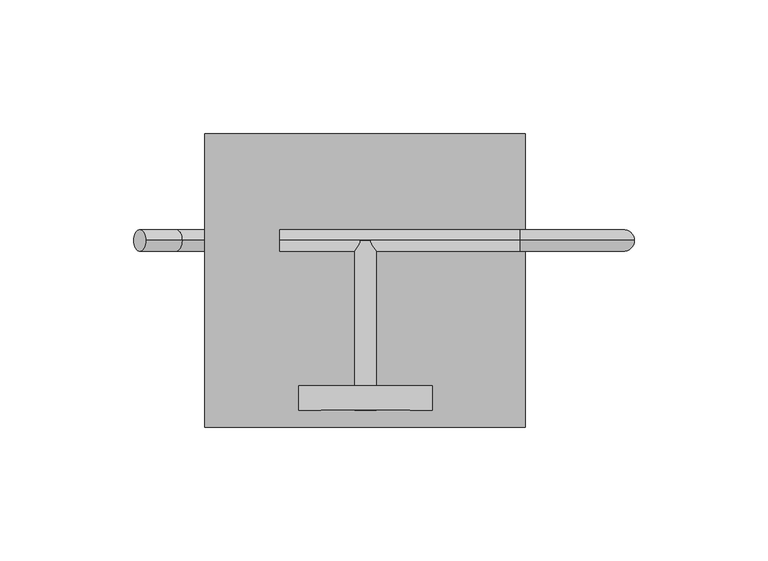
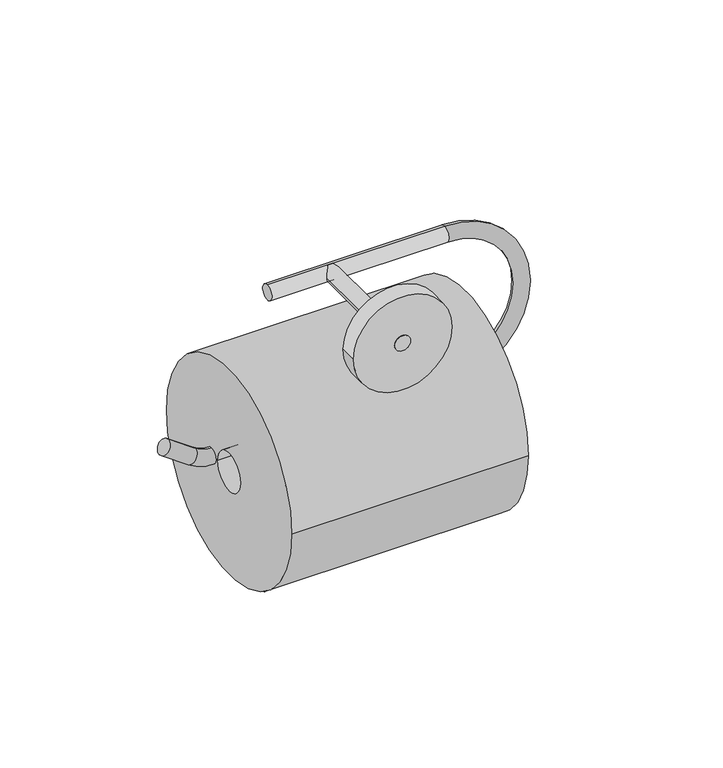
"""IFC4 building model written with IfcOpenShell, lengths in millimetres: flow terminal geometry, Portarrollo Dica 1017 : Portarrollos Dica 1017."""

from ifc_helpers import new_model, si_unit, point, frame, frame_2d, origin, place, context, project, spatial, circle_curve, ellipse_curve, trimmed, segment, composite_curve, outline, extrude, source, transform, mapped, element, save
from ifc_brep_helpers import plane_surface, cylinder_surface, revolved_surface, advanced_brep


def flow_terminal_38a58ad7(model_context):
    return source(origin(), model_context, "Body", "SolidModel", [
        extrude(outline(composite_curve([segment(trimmed(circle_curve(frame_2d((138.5, -77.2787162)), 55.0), [point((193.5, -77.2787162))], [point((83.5, -77.2787162))], False, "CARTESIAN"), True, "CONTINUOUS"), segment(trimmed(circle_curve(frame_2d((138.5, -77.2787162)), 55.0), [point((83.5, -77.2787162))], [point((193.5, -77.2787162))], False, "CARTESIAN"), True, "CONTINUOUS")], self_intersect=False), holes=[composite_curve([segment(trimmed(circle_curve(frame_2d((138.5, -77.2787162)), 10.0), [point((148.5, -77.2787162))], [point((128.5, -77.2787162))], True, "CARTESIAN"), True, "CONTINUOUS"), segment(trimmed(circle_curve(frame_2d((138.5, -77.2787162)), 10.0), [point((128.5, -77.2787162))], [point((148.5, -77.2787162))], True, "CARTESIAN"), True, "CONTINUOUS")], self_intersect=False)]), frame((64.9375, 0.0, 0.0), z_axis=(1.0, 0.0, 0.0), x_axis=(0.0, 1.0, 0.0)), (0.0, 0.0, 1.0), 120.0),
        extrude(outline(composite_curve([segment(trimmed(circle_curve(frame_2d((0.0, 125.0)), 4.0), [point((0.0, 121.0))], [point((0.0, 129.0))], False, "CARTESIAN"), True, "CONTINUOUS"), segment(trimmed(circle_curve(frame_2d((0.0, 125.0)), 4.0), [point((0.0, 129.0))], [point((0.0, 121.0))], False, "CARTESIAN"), True, "CONTINUOUS")], self_intersect=False)), frame((0.0, 90.0, 0.0), z_axis=(0.0, 1.0, 0.0), x_axis=(0.0, 0.0, 1.0)), (0.0, 0.0, 1.0), 63.3830496),
        extrude(outline(composite_curve([segment(trimmed(circle_curve(frame_2d((0.0, 125.0)), 25.0), [point((0.0, 100.0))], [point((0.0, 150.0))], False, "CARTESIAN"), True, "CONTINUOUS"), segment(trimmed(circle_curve(frame_2d((0.0, 125.0)), 25.0), [point((0.0, 150.0))], [point((0.0, 100.0))], False, "CARTESIAN"), True, "CONTINUOUS")], self_intersect=False)), frame((0.0, 90.0, 0.0), z_axis=(0.0, 1.0, 0.0), x_axis=(0.0, 0.0, 1.0)), (0.0, 0.0, 1.0), 8.9918697),
        advanced_brep(
        [(38.2124764, 153.5, -67.8712806), (42.8010879, 153.5, -61.3180642), (51.7841808, 153.5, -77.3742904), (56.3727923, 153.5, -70.821074), (64.8692601, 153.5, -73.5), (64.8692601, 153.5, -81.5), (182.9954104, 153.5, -81.5), (182.9954104, 153.5, -73.5), (182.9954104, 153.5, -4.0), (182.9954104, 153.5, 4.0), (92.9954104, 153.5, 4.0), (92.9954104, 153.5, -4.0)],
        [
            (0, 1, circle_curve(frame((40.5067821, 153.5, -64.5946724), z_axis=(-0.8191520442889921, 0.0, 0.5735764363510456), x_axis=(0.5735764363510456, 0.0, 0.8191520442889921)), 4.0)),
            (1, 0, circle_curve(frame((40.5067821, 153.5, -64.5946724), z_axis=(-0.8191520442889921, 0.0, 0.5735764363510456), x_axis=(0.5735764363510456, 0.0, 0.8191520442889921)), 4.0)),
            (0, 2),
            (2, 3, circle_curve(frame((54.0784866, 153.5, -74.0976822), z_axis=(-0.8191520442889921, 0.0, 0.5735764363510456), x_axis=(0.5735764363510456, 0.0, 0.8191520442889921)), 4.0)),
            (3, 1),
            (3, 2, circle_curve(frame((54.0784866, 153.5, -74.0976822), z_axis=(-0.8191520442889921, 0.0, 0.5735764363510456), x_axis=(0.5735764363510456, 0.0, 0.8191520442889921)), 4.0)),
            (4, 3, circle_curve(frame((64.8692601, 153.5, -58.6868605), z_axis=(0.0, 1.0, 0.0), x_axis=(-0.5735764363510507, 0.0, -0.8191520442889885)), 14.8131395)),
            (2, 5, circle_curve(frame((64.8692601, 153.5, -58.6868605), z_axis=(0.0, -1.0, 0.0), x_axis=(-0.5735764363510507, 0.0, -0.8191520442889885)), 22.8131395)),
            (5, 4, circle_curve(frame((64.8692601, 153.5, -77.5), z_axis=(-1.0, 0.0, 0.0), x_axis=(0.0, 0.0, 1.0)), 4.0)),
            (4, 5, circle_curve(frame((64.8692601, 153.5, -77.5), z_axis=(-0.9999999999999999, 0.0, 0.0), x_axis=(0.0, 0.0, 0.9999999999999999)), 4.0)),
            (5, 6),
            (6, 7, circle_curve(frame((182.9954104, 153.5, -77.5), z_axis=(-1.0, 0.0, 0.0), x_axis=(0.0, 0.0, 1.0)), 4.0)),
            (7, 4),
            (7, 6, circle_curve(frame((182.9954104, 153.5, -77.5), z_axis=(-1.0, 0.0, 0.0), x_axis=(0.0, 0.0, 1.0)), 4.0)),
            (8, 7, circle_curve(frame((182.9954104, 153.5, -38.75), z_axis=(0.0, 1.0, 0.0), x_axis=(0.0, 0.0, -1.0)), 34.75)),
            (6, 9, circle_curve(frame((182.9954104, 153.5, -38.75), z_axis=(0.0, -1.0, 0.0), x_axis=(0.0, 0.0, -1.0)), 42.75)),
            (9, 8, circle_curve(frame((182.9954104, 153.5, 0.0), z_axis=(1.0, 0.0, 0.0), x_axis=(0.0, 0.0, -1.0)), 4.0)),
            (8, 9, circle_curve(frame((182.9954104, 153.5, 0.0), z_axis=(1.0, 0.0, 0.0), x_axis=(0.0, 0.0, -1.0)), 4.0)),
            (10, 11, circle_curve(frame((92.9954104, 153.5, 0.0), z_axis=(-1.0, 0.0, 0.0), x_axis=(0.0, 0.0, -1.0)), 4.0)),
            (11, 10, circle_curve(frame((92.9954104, 153.5, 0.0), z_axis=(-1.0, 0.0, 0.0), x_axis=(0.0, 0.0, -1.0)), 4.0)),
            (9, 10),
            (11, 8),
        ],
        [
            plane_surface(frame((40.5067821, 90.0, -64.5946724), z_axis=(-0.8191520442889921, 0.0, 0.5735764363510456), x_axis=(0.0, -1.0, 0.0))),
            cylinder_surface(frame((40.5067821, 153.5, -64.5946724), z_axis=(-0.8191520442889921, 0.0, 0.5735764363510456), x_axis=(0.5735764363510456, 0.0, 0.8191520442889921)), 4.0),
            revolved_surface(trimmed(ellipse_curve(frame((54.0784866, 153.5, -74.0976822), z_axis=(-0.8191520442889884, 0.0, 0.5735764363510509), x_axis=(0.5735764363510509, 0.0, 0.8191520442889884)), 4.0, 4.0), [point((51.7841808, 153.5, -77.3742904))], [point((56.3727923, 153.5, -70.821074))], True, "CARTESIAN"), (64.8692601, 90.0, -58.6868605), (0.0, -1.0, 0.0)),
            revolved_surface(trimmed(ellipse_curve(frame((54.0784866, 153.5, -74.0976822), z_axis=(-0.8191520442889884, 0.0, 0.5735764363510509), x_axis=(0.5735764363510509, 0.0, 0.8191520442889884)), 4.0, 4.0), [point((56.3727923, 153.5, -70.821074))], [point((51.7841808, 153.5, -77.3742904))], True, "CARTESIAN"), (64.8692601, 90.0, -58.6868605), (0.0, -1.0, 0.0)),
            cylinder_surface(frame((64.8692601, 153.5, -77.5), z_axis=(-1.0, 0.0, 0.0), x_axis=(0.0, 0.0, 1.0)), 4.0),
            revolved_surface(trimmed(ellipse_curve(frame((182.9954104, 153.5, -77.5), z_axis=(-1.0, 0.0, 0.0), x_axis=(0.0, 0.0, 1.0)), 4.0, 4.0), [point((182.9954104, 153.5, -81.5))], [point((182.9954104, 153.5, -73.5))], True, "CARTESIAN"), (182.9954104, 90.0, -38.75), (0.0, -1.0, 0.0)),
            revolved_surface(trimmed(ellipse_curve(frame((182.9954104, 153.5, -77.5), z_axis=(-1.0, 0.0, 0.0), x_axis=(0.0, 0.0, 1.0)), 4.0, 4.0), [point((182.9954104, 153.5, -73.5))], [point((182.9954104, 153.5, -81.5))], True, "CARTESIAN"), (182.9954104, 90.0, -38.75), (0.0, -1.0, 0.0)),
            plane_surface(frame((92.9954104, 90.0, 0.0), z_axis=(-1.0, 0.0, 0.0), x_axis=(0.0, -1.0, 0.0))),
            cylinder_surface(frame((182.9954104, 153.5, 0.0), z_axis=(1.0, 0.0, 0.0), x_axis=(0.0, 0.0, -1.0)), 4.0),
        ],
        [
            (0, [[1, 2]]),
            (1, [[-1, 3, 4, 5]]),
            (1, [[-2, -5, 6, -3]]),
            (2, [[7, -4, 8, 9]]),
            (3, [[-8, -6, -7, 10]]),
            (4, [[-9, 11, 12, 13]]),
            (4, [[-10, -13, 14, -11]]),
            (5, [[15, -12, 16, 17]]),
            (6, [[-16, -14, -15, 18]]),
            (7, [[19, 20]]),
            (8, [[-17, 21, -20, 22]]),
            (8, [[-18, -22, -19, -21]]),
        ],
    ),
    ])


if __name__ == "__main__":
    model = new_model("IFC4")
    model_context = context("Model", 3, world=origin())
    ifc_project = project(units=[si_unit("LENGTHUNIT", "METRE", prefix="MILLI")], contexts=[model_context])
    site = spatial("IfcSite", under=ifc_project)
    building = spatial("IfcBuilding", under=site)
    placement = place(None, origin())
    flow_terminal_shape = flow_terminal_38a58ad7(model_context)
    element("IfcFlowTerminal", 1, ObjectType="Portarrollo Dica 1017 : Portarrollos Dica 1017", at=placement, inside=building, context=model_context, shape_type="MappedRepresentation", body=[
        mapped(flow_terminal_shape, transform((0.0, 0.0, 0.0), x_axis=(1.0, 0.0, 0.0), y_axis=(0.0, 1.0, 0.0), z_axis=(0.0, 0.0, 1.0))),
    ])
    save(model, "model.ifc")
